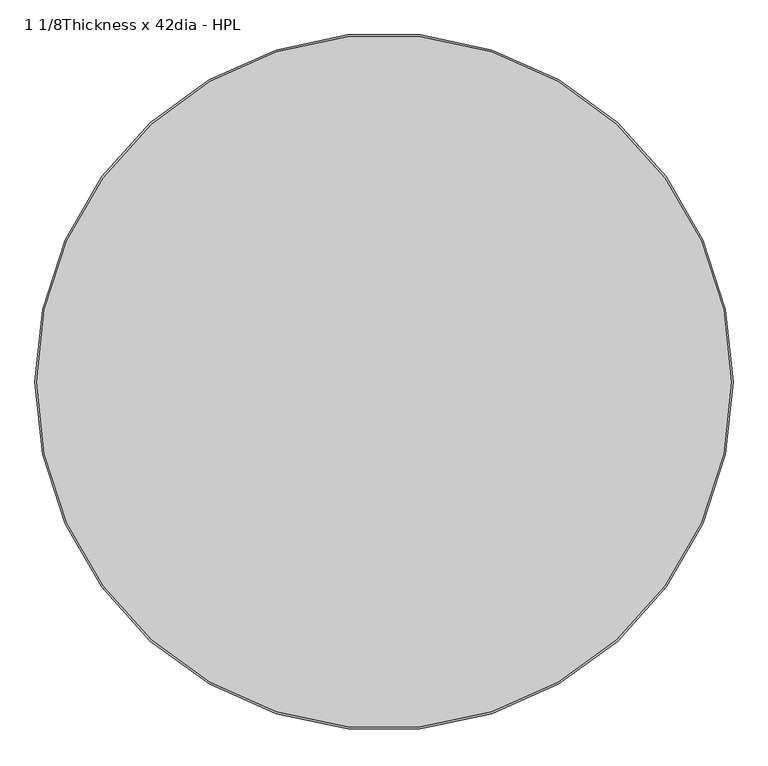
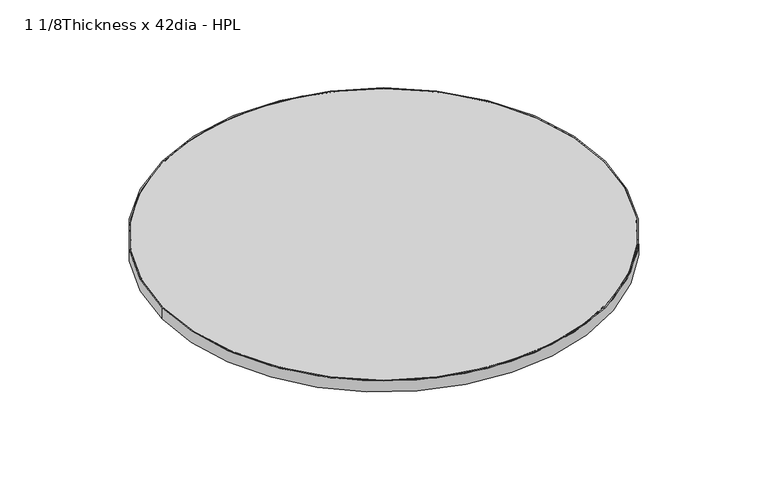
"""IFC4 building model written with IfcOpenShell, lengths in millimetres: furniture geometry, Steelcase - Groupwork - Table - Top - Round : 1 1/8Thickness x 42dia - HPL."""

from ifc_helpers import new_model, si_unit, point, frame, origin, origin_2d, place, context, project, spatial, circle_curve, trimmed, segment, composite_curve, outline, extrude, source, transform, mapped, element, save


def furniture_1_1_8thickness_x_42dia_hpl_65cc382c(model_context):
    return source(origin(), model_context, "Body", "SweptSolid", [
        extrude(outline(composite_curve([segment(trimmed(circle_curve(origin_2d(), 536.448), [point((-536.448, 0.0))], [point((536.448, 0.0))], False, "CARTESIAN"), True, "CONTINUOUS"), segment(trimmed(circle_curve(origin_2d(), 536.448), [point((536.448, 0.0))], [point((-536.448, 0.0))], False, "CARTESIAN"), True, "CONTINUOUS")], self_intersect=False), holes=[composite_curve([segment(trimmed(circle_curve(origin_2d(), 533.4), [point((533.4, 0.0))], [point((-533.4, 0.0))], True, "CARTESIAN"), True, "CONTINUOUS"), segment(trimmed(circle_curve(origin_2d(), 533.4), [point((-533.4, 0.0))], [point((533.4, 0.0))], True, "CARTESIAN"), True, "CONTINUOUS")], self_intersect=False)]), frame((0.0, 0.0, 695.579), z_axis=(0.0, 0.0, 1.0), x_axis=(1.0, 0.0, 0.0)), (0.0, 0.0, 1.0), 28.702),
        extrude(outline(composite_curve([segment(trimmed(circle_curve(origin_2d(), 533.4), [point((-533.4, 0.0))], [point((533.4, 0.0))], False, "CARTESIAN"), True, "CONTINUOUS"), segment(trimmed(circle_curve(origin_2d(), 533.4), [point((533.4, 0.0))], [point((-533.4, 0.0))], False, "CARTESIAN"), True, "CONTINUOUS")], self_intersect=False)), frame((0.0, 0.0, 695.579), z_axis=(0.0, 0.0, 1.0), x_axis=(1.0, 0.0, 0.0)), (0.0, 0.0, 1.0), 28.702),
    ])


if __name__ == "__main__":
    model = new_model("IFC4")
    model_context = context("Model", 3, world=origin())
    ifc_project = project(units=[si_unit("LENGTHUNIT", "METRE", prefix="MILLI")], contexts=[model_context])
    site = spatial("IfcSite", under=ifc_project)
    building = spatial("IfcBuilding", under=site)
    placement = place(None, origin())
    furniture_1_1_8thickness_x_42dia_hpl_shape = furniture_1_1_8thickness_x_42dia_hpl_65cc382c(model_context)
    element("IfcFurniture", 1, ObjectType="Steelcase - Groupwork - Table - Top - Round : 1 1/8Thickness x 42dia - HPL", at=placement, inside=building, context=model_context, shape_type="MappedRepresentation", body=[
        mapped(furniture_1_1_8thickness_x_42dia_hpl_shape, transform((0.0, 0.0, 0.0), x_axis=(1.0, 0.0, 0.0), y_axis=(0.0, 1.0, 0.0), z_axis=(0.0, 0.0, 1.0))),
    ])
    save(model, "model.ifc")
